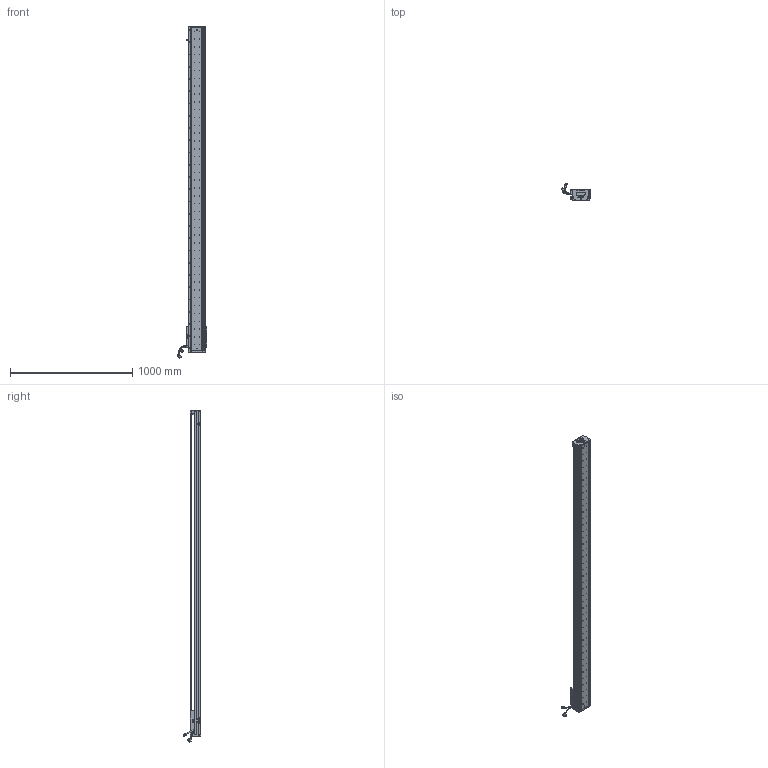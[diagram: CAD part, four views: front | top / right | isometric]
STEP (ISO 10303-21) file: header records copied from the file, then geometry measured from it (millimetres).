
FILE_DESCRIPTION (( 'STEP AP203' ), '1' );
FILE_NAME ('Z2-RY140D-1-L500-B-K.SLDASM_2400.step', '2021-05-17T07:49:37', ( '盈信电脑' ), ( '东莞市道滘镇水果街19号' ), 'SwSTEP 2.0', 'SolidWorks 2016', '' );
FILE_SCHEMA (( 'CONFIG_CONTROL_DESIGN' ));
Length unit declared in the file: millimetre
Products named in the file (36): Z2-RY140-L500直线电机模组底座_2400; HARNESS-Part-2; SCREW-M1.7-1; LABEL; SCREW-M1.6-1; 140雄赽晤鎢ん堤盄; HOLDER0; 140蚥薯蝶輸; SCREW-M1.7; SCALE-Part-1; Z-RY140詩湍奻揤裔; SCALE-Part-2; Z2-RY140圉猾敕臏賑輸(21遴); LABEL-Part-1; PSLH080_PSLF2; 140-Z-臏賑輸盄裔(21遴); COVER; Z-RY140感应器672光电感应片; PBU_SHEET; SCREW-M1.6-3; SCALE; SEAL; HARNESS-Part-1; COVER-Part-1; Z-RY140詩湍狟揤裔; SHIELDPLATE; Z2-RY140D-1-L500-B-K.SLDASM_2400; SCREW-M1.6; 榋妏寠巭燃_暯_M2_2; SEAL-Part-1; HARNESS; 080黍杅芛假蚾釱21遴; 覜茼ん672; Z-140詩湍傷裔啣; Z2-RY140-L500詩湍100mm遵_2400; SCREW-M1.6-2
Assembly tree (41 placements, depth 4):
  Z2-RY140D-1-L500-B-K.SLDASM_2400
    Z2-RY140-L500直线电机模组底座_2400
    Z-RY140感应器672光电感应片
    Z2-RY140圉猾敕臏賑輸(21遴)
    覜茼ん672  x3
    Z2-RY140-L500詩湍100mm遵_2400
    PSLH080_PSLF2
      SCALE
        SCALE-Part-1
        SCALE-Part-2
      HARNESS
        HARNESS-Part-1
        HARNESS-Part-2
      LABEL
        LABEL-Part-1
      COVER
        COVER-Part-1
      SEAL
        SEAL-Part-1
      榋妏寠巭燃_暯_M2_2
      SHIELDPLATE
      SCREW-M1.7
      SCREW-M1.7-1
      PBU_SHEET
      SCREW-M1.6
      SCREW-M1.6-1
      SCREW-M1.6-2
      SCREW-M1.6-3
      HOLDER0
    080黍杅芛假蚾釱21遴
    140-Z-臏賑輸盄裔(21遴)
    Z-140詩湍傷裔啣  x2
    Z-RY140詩湍狟揤裔  x2
    Z-RY140詩湍奻揤裔  x2
    140蚥薯蝶輸  x2
    140雄赽晤鎢ん堤盄
Bounding box: 239.79 x 143.77 x 2710.87 mm (x, y, z)
Volume: 8479501 mm3; surface area: 2230810.7 mm2
Topology: 36 solids, 36 shells, 4162 faces, 11346 edges, 7194 vertices
Faces by surface type: cylinder 2260, plane 1380, cone 390, torus 79, bspline 53
Entity records: 132806 total; most frequent: CARTESIAN_POINT 37910, ORIENTED_EDGE 19624, DIRECTION 18070, EDGE_CURVE 9812, AXIS2_PLACEMENT_3D 6722, VERTEX_POINT 6362, LINE 4626, VECTOR 4626
